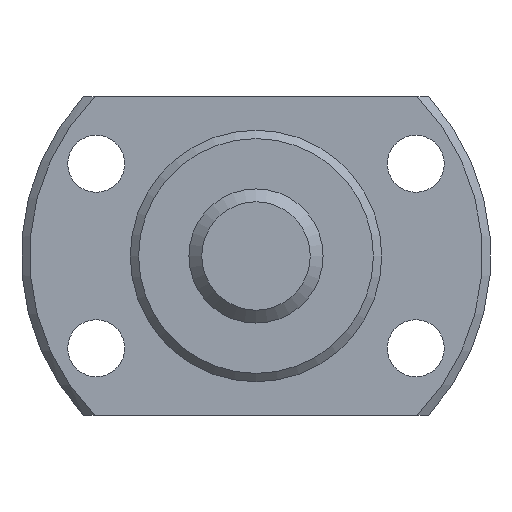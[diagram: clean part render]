
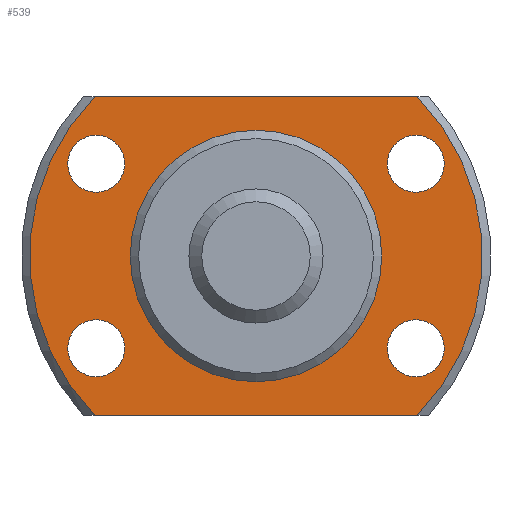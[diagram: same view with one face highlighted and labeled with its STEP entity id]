
A CAD part, left-side view. The second image highlights one B-rep face of the part: STEP entity #539.
In plain terms, the highlighted planar face has unit normal (-1, 0, 0) as drawn and (1, 0, 0) by its records, which use the part's own axes.
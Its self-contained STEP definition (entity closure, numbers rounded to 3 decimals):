
#73=CIRCLE('',#608,13.5);
#88=CIRCLE('',#632,7.3);
#89=CIRCLE('',#634,13.5);
#90=CIRCLE('',#635,1.7);
#91=CIRCLE('',#636,1.7);
#92=CIRCLE('',#637,1.7);
#93=CIRCLE('',#638,1.7);
#176=ORIENTED_EDGE('',*,*,#270,.T.);
#177=ORIENTED_EDGE('',*,*,#248,.T.);
#178=ORIENTED_EDGE('',*,*,#271,.T.);
#179=ORIENTED_EDGE('',*,*,#272,.T.);
#180=ORIENTED_EDGE('',*,*,#273,.F.);
#181=ORIENTED_EDGE('',*,*,#274,.F.);
#182=ORIENTED_EDGE('',*,*,#275,.F.);
#183=ORIENTED_EDGE('',*,*,#276,.F.);
#184=ORIENTED_EDGE('',*,*,#269,.F.);
#248=EDGE_CURVE('',#303,#305,#73,.T.);
#269=EDGE_CURVE('',#324,#324,#88,.T.);
#270=EDGE_CURVE('',#325,#303,#347,.T.);
#271=EDGE_CURVE('',#305,#326,#348,.T.);
#272=EDGE_CURVE('',#326,#325,#89,.T.);
#273=EDGE_CURVE('',#327,#327,#90,.T.);
#274=EDGE_CURVE('',#328,#328,#91,.T.);
#275=EDGE_CURVE('',#329,#329,#92,.T.);
#276=EDGE_CURVE('',#330,#330,#93,.T.);
#303=VERTEX_POINT('',#886);
#305=VERTEX_POINT('',#893);
#324=VERTEX_POINT('',#949);
#325=VERTEX_POINT('',#952);
#326=VERTEX_POINT('',#954);
#327=VERTEX_POINT('',#957);
#328=VERTEX_POINT('',#959);
#329=VERTEX_POINT('',#961);
#330=VERTEX_POINT('',#963);
#347=LINE('',#951,#365);
#348=LINE('',#953,#366);
#365=VECTOR('',#784,1000.);
#366=VECTOR('',#785,1000.);
#414=EDGE_LOOP('',(#176,#177,#178,#179));
#415=EDGE_LOOP('',(#180));
#416=EDGE_LOOP('',(#181));
#417=EDGE_LOOP('',(#182));
#418=EDGE_LOOP('',(#183));
#419=EDGE_LOOP('',(#184));
#478=FACE_BOUND('',#414,.T.);
#479=FACE_BOUND('',#415,.T.);
#480=FACE_BOUND('',#416,.T.);
#481=FACE_BOUND('',#417,.T.);
#482=FACE_BOUND('',#418,.T.);
#483=FACE_BOUND('',#419,.T.);
#510=PLANE('',#633);
#539=ADVANCED_FACE('',(#478,#479,#480,#481,#482,#483),#510,.T.);
#608=AXIS2_PLACEMENT_3D('',#894,#728,#729);
#632=AXIS2_PLACEMENT_3D('',#948,#780,#781);
#633=AXIS2_PLACEMENT_3D('',#950,#782,#783);
#634=AXIS2_PLACEMENT_3D('',#955,#786,#787);
#635=AXIS2_PLACEMENT_3D('',#956,#788,#789);
#636=AXIS2_PLACEMENT_3D('',#958,#790,#791);
#637=AXIS2_PLACEMENT_3D('',#960,#792,#793);
#638=AXIS2_PLACEMENT_3D('',#962,#794,#795);
#728=DIRECTION('',(1.,0.,0.));
#729=DIRECTION('',(0.,0.,-1.));
#780=DIRECTION('',(1.,0.,0.));
#781=DIRECTION('',(0.,0.,-1.));
#782=DIRECTION('',(1.,0.,0.));
#783=DIRECTION('',(0.,0.,-1.));
#784=DIRECTION('',(0.,-1.,0.));
#785=DIRECTION('',(0.,1.,0.));
#786=DIRECTION('',(1.,0.,0.));
#787=DIRECTION('',(0.,0.,-1.));
#788=DIRECTION('',(1.,0.,0.));
#789=DIRECTION('',(0.,0.,-1.));
#790=DIRECTION('',(1.,0.,0.));
#791=DIRECTION('',(0.,0.,-1.));
#792=DIRECTION('',(1.,0.,0.));
#793=DIRECTION('',(0.,0.,-1.));
#794=DIRECTION('',(1.,0.,0.));
#795=DIRECTION('',(0.,0.,-1.));
#886=CARTESIAN_POINT('',(4.,-9.592,9.5));
#893=CARTESIAN_POINT('',(4.,-9.592,-9.5));
#894=CARTESIAN_POINT('',(4.,0.,0.));
#948=CARTESIAN_POINT('',(4.,0.,0.));
#949=CARTESIAN_POINT('',(4.,0.,-7.3));
#950=CARTESIAN_POINT('',(4.,7.3,0.));
#951=CARTESIAN_POINT('',(4.,14.,9.5));
#952=CARTESIAN_POINT('',(4.,9.592,9.5));
#953=CARTESIAN_POINT('',(4.,-14.,-9.5));
#954=CARTESIAN_POINT('',(4.,9.592,-9.5));
#955=CARTESIAN_POINT('',(4.,0.,0.));
#956=CARTESIAN_POINT('',(4.,9.526,5.5));
#957=CARTESIAN_POINT('',(4.,9.526,3.8));
#958=CARTESIAN_POINT('',(4.,-9.526,5.5));
#959=CARTESIAN_POINT('',(4.,-9.526,3.8));
#960=CARTESIAN_POINT('',(4.,-9.526,-5.5));
#961=CARTESIAN_POINT('',(4.,-9.526,-7.2));
#962=CARTESIAN_POINT('',(4.,9.526,-5.5));
#963=CARTESIAN_POINT('',(4.,9.526,-7.2));
